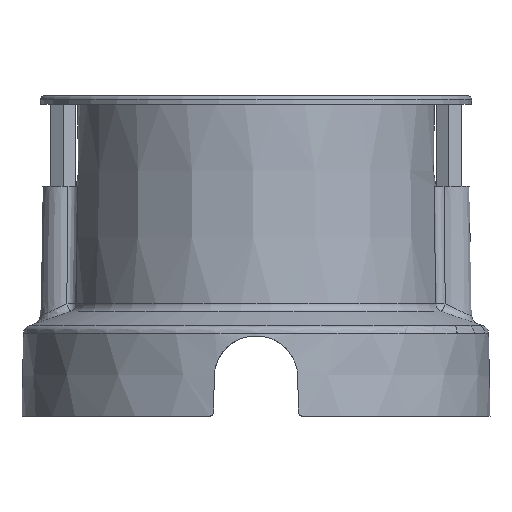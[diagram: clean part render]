
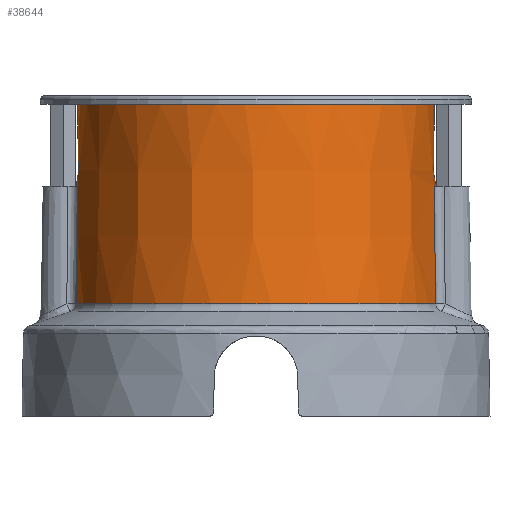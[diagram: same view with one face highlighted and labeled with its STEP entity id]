
A CAD part, left-side view. The second image highlights one B-rep face of the part: STEP entity #38644.
In plain terms, the highlighted conical face has half-angle 1 degrees and reference radius 44.373 mm.
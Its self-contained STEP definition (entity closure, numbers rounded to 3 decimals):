
#1616=B_SPLINE_CURVE_WITH_KNOTS('',3,(#55405,#55406,#55407,#55408),
 .UNSPECIFIED.,.F.,.F.,(4,4),(0.,0.029),.UNSPECIFIED.);
#1621=B_SPLINE_CURVE_WITH_KNOTS('',3,(#55445,#55446,#55447,#55448),
 .UNSPECIFIED.,.F.,.F.,(4,4),(0.,0.029),.UNSPECIFIED.);
#1622=B_SPLINE_CURVE_WITH_KNOTS('',3,(#55461,#55462,#55463,#55464),
 .UNSPECIFIED.,.F.,.F.,(4,4),(0.,0.029),.UNSPECIFIED.);
#1627=B_SPLINE_CURVE_WITH_KNOTS('',3,(#55501,#55502,#55503,#55504),
 .UNSPECIFIED.,.F.,.F.,(4,4),(0.,0.029),.UNSPECIFIED.);
#3571=CONICAL_SURFACE('',#40689,44.373,0.017);
#4442=CIRCLE('',#40682,44.349);
#4443=CIRCLE('',#40684,44.349);
#4446=CIRCLE('',#40690,43.849);
#4447=CIRCLE('',#40691,43.849);
#4448=CIRCLE('',#40692,43.503);
#7082=ORIENTED_EDGE('',*,*,#15219,.T.);
#7083=ORIENTED_EDGE('',*,*,#15212,.T.);
#7084=ORIENTED_EDGE('',*,*,#15204,.T.);
#7085=ORIENTED_EDGE('',*,*,#15211,.T.);
#7086=ORIENTED_EDGE('',*,*,#15220,.F.);
#7087=ORIENTED_EDGE('',*,*,#15205,.T.);
#7088=ORIENTED_EDGE('',*,*,#15203,.T.);
#7089=ORIENTED_EDGE('',*,*,#15218,.T.);
#7090=ORIENTED_EDGE('',*,*,#15221,.T.);
#15203=EDGE_CURVE('',#19228,#19234,#4442,.F.);
#15204=EDGE_CURVE('',#19232,#19230,#4443,.F.);
#15205=EDGE_CURVE('',#19235,#19228,#1616,.T.);
#15211=EDGE_CURVE('',#19230,#19238,#1621,.T.);
#15212=EDGE_CURVE('',#19239,#19232,#1622,.T.);
#15218=EDGE_CURVE('',#19234,#19242,#1627,.T.);
#15219=EDGE_CURVE('',#19242,#19239,#4446,.F.);
#15220=EDGE_CURVE('',#19235,#19238,#4447,.F.);
#15221=EDGE_CURVE('',#19243,#19243,#4448,.F.);
#19228=VERTEX_POINT('',#55281);
#19230=VERTEX_POINT('',#55331);
#19232=VERTEX_POINT('',#55337);
#19234=VERTEX_POINT('',#55387);
#19235=VERTEX_POINT('',#55409);
#19238=VERTEX_POINT('',#55444);
#19239=VERTEX_POINT('',#55465);
#19242=VERTEX_POINT('',#55500);
#19243=VERTEX_POINT('',#55509);
#21907=EDGE_LOOP('',(#7082,#7083,#7084,#7085,#7086,#7087,#7088,#7089));
#21908=EDGE_LOOP('',(#7090));
#23806=FACE_BOUND('',#21907,.T.);
#23807=FACE_BOUND('',#21908,.T.);
#38644=ADVANCED_FACE('',(#23806,#23807),#3571,.T.);
#40682=AXIS2_PLACEMENT_3D('',#55390,#43673,#43674);
#40684=AXIS2_PLACEMENT_3D('',#55392,#43677,#43678);
#40689=AXIS2_PLACEMENT_3D('',#55505,#43687,#43688);
#40690=AXIS2_PLACEMENT_3D('',#55506,#43689,#43690);
#40691=AXIS2_PLACEMENT_3D('',#55507,#43691,#43692);
#40692=AXIS2_PLACEMENT_3D('',#55508,#43693,#43694);
#43673=DIRECTION('',(0.,0.,-1.));
#43674=DIRECTION('',(-1.,0.,0.));
#43677=DIRECTION('',(0.,0.,-1.));
#43678=DIRECTION('',(-1.,0.,0.));
#43687=DIRECTION('',(0.,0.,-1.));
#43688=DIRECTION('',(-1.,0.,0.));
#43689=DIRECTION('',(0.,0.,-1.));
#43690=DIRECTION('',(-1.,0.,0.));
#43691=DIRECTION('',(0.,0.,1.));
#43692=DIRECTION('',(1.,0.,0.));
#43693=DIRECTION('',(0.,0.,1.));
#43694=DIRECTION('',(1.,0.,0.));
#55281=CARTESIAN_POINT('',(-7.076,43.781,27.37));
#55331=CARTESIAN_POINT('',(7.076,43.781,27.37));
#55337=CARTESIAN_POINT('',(7.076,-43.781,27.37));
#55387=CARTESIAN_POINT('',(-7.076,-43.781,27.37));
#55390=CARTESIAN_POINT('',(0.,0.,27.37));
#55392=CARTESIAN_POINT('',(0.,0.,27.37));
#55405=CARTESIAN_POINT('',(-6.504,43.364,56.));
#55406=CARTESIAN_POINT('',(-6.701,43.503,46.457));
#55407=CARTESIAN_POINT('',(-6.891,43.642,36.913));
#55408=CARTESIAN_POINT('',(-7.076,43.781,27.37));
#55409=CARTESIAN_POINT('',(-6.504,43.364,56.));
#55444=CARTESIAN_POINT('',(6.504,43.364,56.));
#55445=CARTESIAN_POINT('',(7.076,43.781,27.37));
#55446=CARTESIAN_POINT('',(6.891,43.642,36.913));
#55447=CARTESIAN_POINT('',(6.701,43.503,46.457));
#55448=CARTESIAN_POINT('',(6.504,43.364,56.));
#55461=CARTESIAN_POINT('',(6.504,-43.364,56.));
#55462=CARTESIAN_POINT('',(6.701,-43.503,46.457));
#55463=CARTESIAN_POINT('',(6.891,-43.642,36.913));
#55464=CARTESIAN_POINT('',(7.076,-43.781,27.37));
#55465=CARTESIAN_POINT('',(6.504,-43.364,56.));
#55500=CARTESIAN_POINT('',(-6.504,-43.364,56.));
#55501=CARTESIAN_POINT('',(-7.076,-43.781,27.37));
#55502=CARTESIAN_POINT('',(-6.891,-43.642,36.913));
#55503=CARTESIAN_POINT('',(-6.701,-43.503,46.457));
#55504=CARTESIAN_POINT('',(-6.504,-43.364,56.));
#55505=CARTESIAN_POINT('',(0.,0.,26.));
#55506=CARTESIAN_POINT('',(0.,0.,56.));
#55507=CARTESIAN_POINT('',(0.,0.,56.));
#55508=CARTESIAN_POINT('',(0.,0.,75.803));
#55509=CARTESIAN_POINT('',(43.503,0.,75.803));
